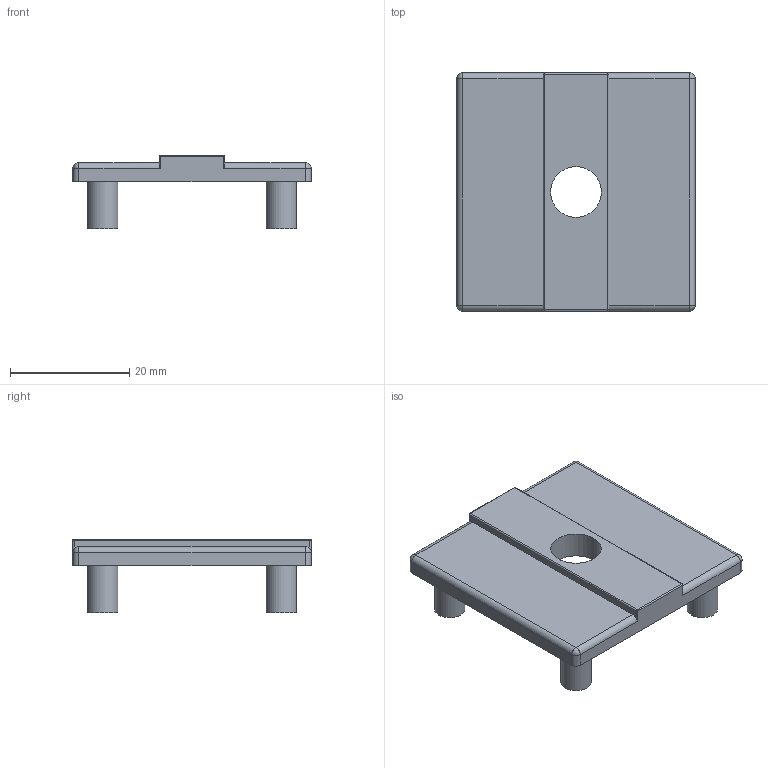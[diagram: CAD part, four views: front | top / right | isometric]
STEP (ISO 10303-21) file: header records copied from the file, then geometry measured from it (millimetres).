
FILE_DESCRIPTION(/* description */ ('END CAP 40x40 WITH GUIDE RAIL'),/* implementation_level */ '2;1');
FILE_NAME(/* name */ '\\carryline.intra\privat\users\mathias\Desktop\Tillfälliga filer\100-2016.stp',/* time_stamp */ '2018-11-20T10:39:02+01:00',/* author */ ('PL'),/* organization */ ('CARRYLINE'),/* preprocessor_version */ 'ST-DEVELOPER v17',/* originating_system */ 'Autodesk Inventor 2018',/* authorisation */ '');
FILE_SCHEMA (('AUTOMOTIVE_DESIGN { 1 0 10303 214 3 1 1 }'));
Length unit declared in the file: millimetre
Products named in the file (1): 100-2016
Bounding box: 40 x 40 x 12.4 mm (x, y, z)
Volume: 6049.5 mm3; surface area: 4282.8 mm2
Topology: 1 solids, 1 shells, 45 faces, 102 edges, 55 vertices
Faces by surface type: cylinder 23, plane 14, sphere 8
Full cylindrical faces by diameter (mm): 5.1 x4, 8.5 x1
Entity records: 1242 total; most frequent: DIRECTION 225, CARTESIAN_POINT 215, ORIENTED_EDGE 188, EDGE_CURVE 94, AXIS2_PLACEMENT_3D 89, VERTEX_POINT 55, EDGE_LOOP 51, LINE 47
